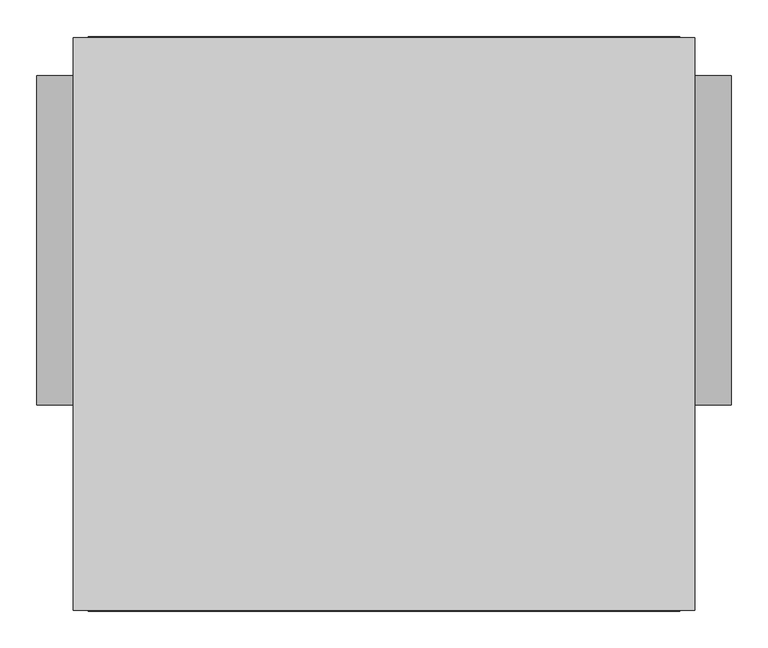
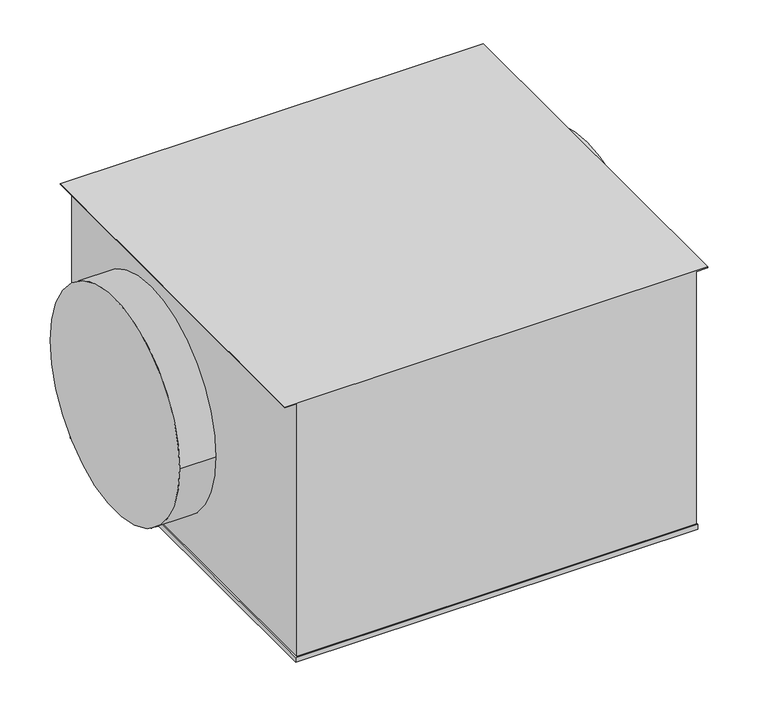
"""IFC4 building model written with IfcOpenShell, lengths in millimetres: unitary equipment geometry, VE-Wentylator-ParaForma-Harmann-ECOBOX_EC-Nawiewny : 450/4200EC."""

from ifc_helpers import new_model, si_unit, point, frame, origin, origin_2d, place, context, project, spatial, polyline, circle_curve, trimmed, segment, composite_curve, outline, extrude, source, transform, mapped, element, save


def unitary_equipment_a4a32f91(model_context):
    return source(origin(), model_context, "Body", "SweptSolid", [
        extrude(outline(polyline([(-402.6, -505.5), (-402.6, 277.5), (402.6, 277.5), (402.6, -505.5), (-402.6, -505.5)])), frame((0.0, 0.0, -264.0), z_axis=(0.0, 0.0, 1.0), x_axis=(1.0, 0.0, 0.0)), (0.0, 0.0, 1.0), 10.0),
        extrude(outline(polyline([(283.0, -423.5), (281.5, -423.5), (281.5, -400.0), (-252.5, -400.0), (-252.5, 400.0), (281.5, 400.0), (281.5, 423.5), (283.0, 423.5), (283.0, -423.5)])), frame((0.0, -504.0, 0.0), z_axis=(0.0, 1.0, 0.0), x_axis=(0.0, 0.0, 1.0)), (0.0, 0.0, 1.0), 780.0),
        extrude(outline(composite_curve([segment(trimmed(circle_curve(origin_2d(), 224.5), [point((-224.5, 0.0))], [point((224.5, 0.0))], False, "CARTESIAN"), True, "CONTINUOUS"), segment(trimmed(circle_curve(origin_2d(), 224.5), [point((224.5, 0.0))], [point((-224.5, 0.0))], False, "CARTESIAN"), True, "CONTINUOUS")], self_intersect=False)), frame((400.0, 0.0, 0.0), z_axis=(1.0, 0.0, 0.0), x_axis=(0.0, 1.0, 0.0)), (0.0, 0.0, 1.0), 73.0),
        extrude(outline(composite_curve([segment(trimmed(circle_curve(origin_2d(), 224.5), [point((-224.5, 0.0))], [point((224.5, 0.0))], False, "CARTESIAN"), True, "CONTINUOUS"), segment(trimmed(circle_curve(origin_2d(), 224.5), [point((224.5, 0.0))], [point((-224.5, 0.0))], False, "CARTESIAN"), True, "CONTINUOUS")], self_intersect=False)), frame((-473.0, 0.0, 0.0), z_axis=(1.0, 0.0, 0.0), x_axis=(0.0, 1.0, 0.0)), (0.0, 0.0, 1.0), 73.0),
    ])


if __name__ == "__main__":
    model = new_model("IFC4")
    model_context = context("Model", 3, world=origin())
    ifc_project = project(units=[si_unit("LENGTHUNIT", "METRE", prefix="MILLI")], contexts=[model_context])
    site = spatial("IfcSite", under=ifc_project)
    building = spatial("IfcBuilding", under=site)
    placement = place(None, origin())
    unitary_equipment_shape = unitary_equipment_a4a32f91(model_context)
    element("IfcUnitaryEquipment", 1, ObjectType="VE-Wentylator-ParaForma-Harmann-ECOBOX_EC-Nawiewny : 450/4200EC", at=placement, inside=building, context=model_context, shape_type="MappedRepresentation", body=[
        mapped(unitary_equipment_shape, transform((0.0, 0.0, 0.0), x_axis=(1.0, 0.0, 0.0), y_axis=(0.0, 1.0, 0.0), z_axis=(0.0, 0.0, 1.0))),
    ])
    save(model, "model.ifc")
